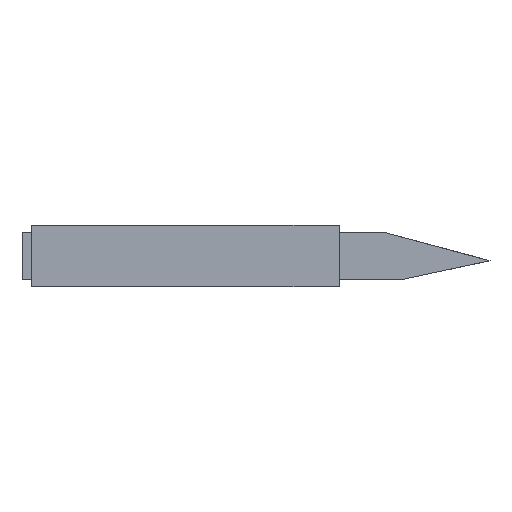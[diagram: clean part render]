
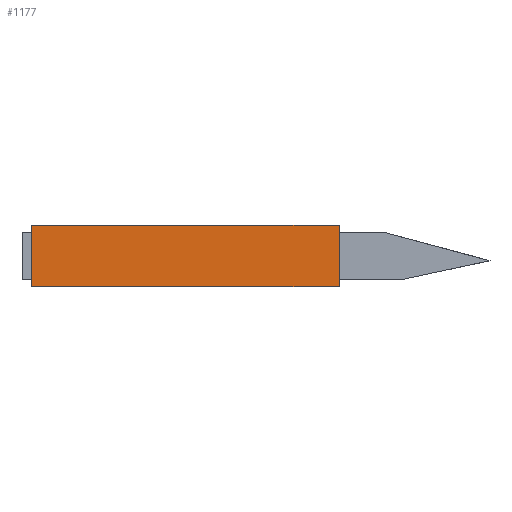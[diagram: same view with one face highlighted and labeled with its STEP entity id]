
A CAD part, left-side view. The second image highlights one B-rep face of the part: STEP entity #1177.
In plain terms, the highlighted planar face has unit normal (-1, 0, 0).
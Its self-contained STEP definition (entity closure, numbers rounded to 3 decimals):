
#150 = PLANE('',#151);
#151 = AXIS2_PLACEMENT_3D('',#152,#153,#154);
#152 = CARTESIAN_POINT('',(-28.,4.9,-0.225));
#153 = DIRECTION('',(0.,1.,0.));
#154 = DIRECTION('',(1.,0.,0.));
#386 = EDGE_CURVE('',#387,#389,#391,.T.);
#387 = VERTEX_POINT('',#388);
#388 = CARTESIAN_POINT('',(-28.,4.9,-0.225));
#389 = VERTEX_POINT('',#390);
#390 = CARTESIAN_POINT('',(-28.,4.9,1.775));
#391 = SURFACE_CURVE('',#392,(#396,#403),.PCURVE_S1.);
#392 = LINE('',#393,#394);
#393 = CARTESIAN_POINT('',(-28.,4.9,-0.225));
#394 = VECTOR('',#395,1.);
#395 = DIRECTION('',(0.,0.,1.));
#396 = PCURVE('',#150,#397);
#397 = DEFINITIONAL_REPRESENTATION('',(#398),#402);
#398 = LINE('',#399,#400);
#399 = CARTESIAN_POINT('',(0.,0.));
#400 = VECTOR('',#401,1.);
#401 = DIRECTION('',(0.,-1.));
#402 = ( GEOMETRIC_REPRESENTATION_CONTEXT(2) 
PARAMETRIC_REPRESENTATION_CONTEXT() REPRESENTATION_CONTEXT('2D SPACE',''
  ) );
#403 = PCURVE('',#404,#409);
#404 = PLANE('',#405);
#405 = AXIS2_PLACEMENT_3D('',#406,#407,#408);
#406 = CARTESIAN_POINT('',(-28.,14.9,-0.225));
#407 = DIRECTION('',(1.,0.,-0.));
#408 = DIRECTION('',(0.,-1.,0.));
#409 = DEFINITIONAL_REPRESENTATION('',(#410),#414);
#410 = LINE('',#411,#412);
#411 = CARTESIAN_POINT('',(10.,0.));
#412 = VECTOR('',#413,1.);
#413 = DIRECTION('',(0.,-1.));
#414 = ( GEOMETRIC_REPRESENTATION_CONTEXT(2) 
PARAMETRIC_REPRESENTATION_CONTEXT() REPRESENTATION_CONTEXT('2D SPACE',''
  ) );
#432 = PLANE('',#433);
#433 = AXIS2_PLACEMENT_3D('',#434,#435,#436);
#434 = CARTESIAN_POINT('',(-14.,9.9,1.775));
#435 = DIRECTION('',(0.,0.,1.));
#436 = DIRECTION('',(1.,0.,-0.));
#508 = PLANE('',#509);
#509 = AXIS2_PLACEMENT_3D('',#510,#511,#512);
#510 = CARTESIAN_POINT('',(-14.,9.9,-0.225));
#511 = DIRECTION('',(0.,0.,1.));
#512 = DIRECTION('',(1.,0.,-0.));
#1139 = PLANE('',#1140);
#1140 = AXIS2_PLACEMENT_3D('',#1141,#1142,#1143);
#1141 = CARTESIAN_POINT('',(0.,14.9,-0.225));
#1142 = DIRECTION('',(0.,-1.,0.));
#1143 = DIRECTION('',(-1.,0.,0.));
#1177 = ADVANCED_FACE('',(#1178),#404,.F.);
#1178 = FACE_BOUND('',#1179,.F.);
#1179 = EDGE_LOOP('',(#1180,#1205,#1226,#1227));
#1180 = ORIENTED_EDGE('',*,*,#1181,.T.);
#1181 = EDGE_CURVE('',#1182,#1184,#1186,.T.);
#1182 = VERTEX_POINT('',#1183);
#1183 = CARTESIAN_POINT('',(-28.,14.9,-0.225));
#1184 = VERTEX_POINT('',#1185);
#1185 = CARTESIAN_POINT('',(-28.,14.9,1.775));
#1186 = SURFACE_CURVE('',#1187,(#1191,#1198),.PCURVE_S1.);
#1187 = LINE('',#1188,#1189);
#1188 = CARTESIAN_POINT('',(-28.,14.9,-0.225));
#1189 = VECTOR('',#1190,1.);
#1190 = DIRECTION('',(0.,0.,1.));
#1191 = PCURVE('',#404,#1192);
#1192 = DEFINITIONAL_REPRESENTATION('',(#1193),#1197);
#1193 = LINE('',#1194,#1195);
#1194 = CARTESIAN_POINT('',(0.,0.));
#1195 = VECTOR('',#1196,1.);
#1196 = DIRECTION('',(0.,-1.));
#1197 = ( GEOMETRIC_REPRESENTATION_CONTEXT(2) 
PARAMETRIC_REPRESENTATION_CONTEXT() REPRESENTATION_CONTEXT('2D SPACE',''
  ) );
#1198 = PCURVE('',#1139,#1199);
#1199 = DEFINITIONAL_REPRESENTATION('',(#1200),#1204);
#1200 = LINE('',#1201,#1202);
#1201 = CARTESIAN_POINT('',(28.,0.));
#1202 = VECTOR('',#1203,1.);
#1203 = DIRECTION('',(0.,-1.));
#1204 = ( GEOMETRIC_REPRESENTATION_CONTEXT(2) 
PARAMETRIC_REPRESENTATION_CONTEXT() REPRESENTATION_CONTEXT('2D SPACE',''
  ) );
#1205 = ORIENTED_EDGE('',*,*,#1206,.T.);
#1206 = EDGE_CURVE('',#1184,#389,#1207,.T.);
#1207 = SURFACE_CURVE('',#1208,(#1212,#1219),.PCURVE_S1.);
#1208 = LINE('',#1209,#1210);
#1209 = CARTESIAN_POINT('',(-28.,14.9,1.775));
#1210 = VECTOR('',#1211,1.);
#1211 = DIRECTION('',(0.,-1.,0.));
#1212 = PCURVE('',#404,#1213);
#1213 = DEFINITIONAL_REPRESENTATION('',(#1214),#1218);
#1214 = LINE('',#1215,#1216);
#1215 = CARTESIAN_POINT('',(0.,-2.));
#1216 = VECTOR('',#1217,1.);
#1217 = DIRECTION('',(1.,0.));
#1218 = ( GEOMETRIC_REPRESENTATION_CONTEXT(2) 
PARAMETRIC_REPRESENTATION_CONTEXT() REPRESENTATION_CONTEXT('2D SPACE',''
  ) );
#1219 = PCURVE('',#432,#1220);
#1220 = DEFINITIONAL_REPRESENTATION('',(#1221),#1225);
#1221 = LINE('',#1222,#1223);
#1222 = CARTESIAN_POINT('',(-14.,5.));
#1223 = VECTOR('',#1224,1.);
#1224 = DIRECTION('',(0.,-1.));
#1225 = ( GEOMETRIC_REPRESENTATION_CONTEXT(2) 
PARAMETRIC_REPRESENTATION_CONTEXT() REPRESENTATION_CONTEXT('2D SPACE',''
  ) );
#1226 = ORIENTED_EDGE('',*,*,#386,.F.);
#1227 = ORIENTED_EDGE('',*,*,#1228,.F.);
#1228 = EDGE_CURVE('',#1182,#387,#1229,.T.);
#1229 = SURFACE_CURVE('',#1230,(#1234,#1241),.PCURVE_S1.);
#1230 = LINE('',#1231,#1232);
#1231 = CARTESIAN_POINT('',(-28.,14.9,-0.225));
#1232 = VECTOR('',#1233,1.);
#1233 = DIRECTION('',(0.,-1.,0.));
#1234 = PCURVE('',#404,#1235);
#1235 = DEFINITIONAL_REPRESENTATION('',(#1236),#1240);
#1236 = LINE('',#1237,#1238);
#1237 = CARTESIAN_POINT('',(0.,0.));
#1238 = VECTOR('',#1239,1.);
#1239 = DIRECTION('',(1.,0.));
#1240 = ( GEOMETRIC_REPRESENTATION_CONTEXT(2) 
PARAMETRIC_REPRESENTATION_CONTEXT() REPRESENTATION_CONTEXT('2D SPACE',''
  ) );
#1241 = PCURVE('',#508,#1242);
#1242 = DEFINITIONAL_REPRESENTATION('',(#1243),#1247);
#1243 = LINE('',#1244,#1245);
#1244 = CARTESIAN_POINT('',(-14.,5.));
#1245 = VECTOR('',#1246,1.);
#1246 = DIRECTION('',(0.,-1.));
#1247 = ( GEOMETRIC_REPRESENTATION_CONTEXT(2) 
PARAMETRIC_REPRESENTATION_CONTEXT() REPRESENTATION_CONTEXT('2D SPACE',''
  ) );
